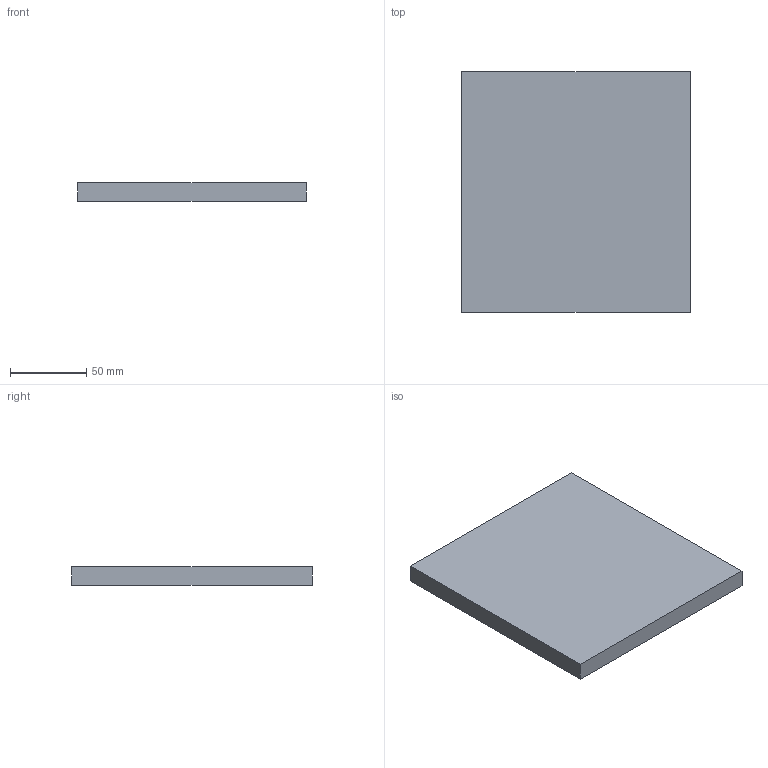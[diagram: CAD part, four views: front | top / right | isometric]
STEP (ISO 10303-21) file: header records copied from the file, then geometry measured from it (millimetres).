
FILE_DESCRIPTION(('Open CASCADE Model'),'2;1');
FILE_NAME('Open CASCADE Shape Model','2026-10-19T10:09:19',('Author'),( 'Open CASCADE'),'Open CASCADE STEP processor 8.0','Open CASCADE 8.0' ,'Unknown');
FILE_SCHEMA(('AUTOMOTIVE_DESIGN { 1 0 10303 214 1 1 1 1 }'));
Length unit declared in the file: millimetre
Products named in the file (1): U02_COLLAR_150x158x12_P05 32
Bounding box: 150 x 158 x 12 mm (x, y, z)
Volume: 284400 mm3; surface area: 54792 mm2
Topology: 1 solids, 1 shells, 6 faces, 12 edges, 8 vertices
Faces by surface type: plane 6
Entity records: 322 total; most frequent: CARTESIAN_POINT 51, DIRECTION 50, LINE 36, VECTOR 36, ORIENTED_EDGE 24, PCURVE 24, DEFINITIONAL_REPRESENTATION 24, EDGE_CURVE 12
